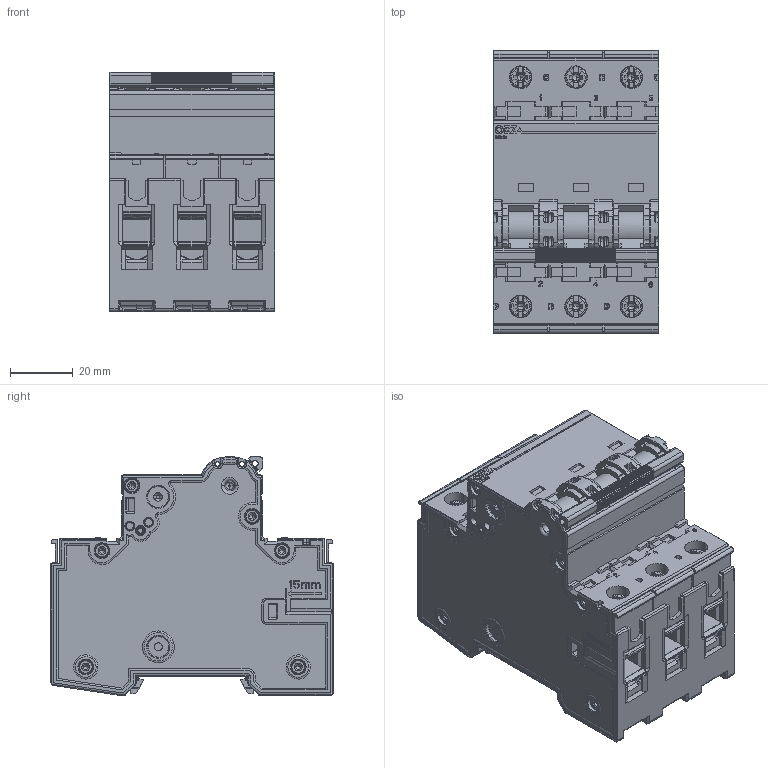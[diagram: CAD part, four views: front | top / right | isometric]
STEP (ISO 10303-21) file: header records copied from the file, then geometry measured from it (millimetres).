
FILE_DESCRIPTION (( 'STEP AP214' ), '1' );
FILE_NAME ('MSN-3_oprava_1.STEP', '2016-02-26T11:16:54', ( '' ), ( '' ), 'SwSTEP 2.0', 'SolidWorks 2011', '' );
FILE_SCHEMA (( 'AUTOMOTIVE_DESIGN' ));
Length unit declared in the file: millimetre
Products named in the file (1): MSN-3_oprava_1
Bounding box: 52.8 x 89.8 x 76.07 mm (x, y, z)
Volume: 255937.5 mm3; surface area: 47690.4 mm2
Topology: 7 solids, 7 shells, 3939 faces, 11290 edges, 7412 vertices
Faces by surface type: plane 2339, cylinder 815, bspline 358, cone 248, torus 131, sphere 48
Entity records: 193944 total; most frequent: CARTESIAN_POINT 55978, ORIENTED_EDGE 22460, DIRECTION 15388, EDGE_CURVE 11230, VERTEX_POINT 7400, LINE 6618, VECTOR 6618, AXIS2_PLACEMENT_3D 4385
